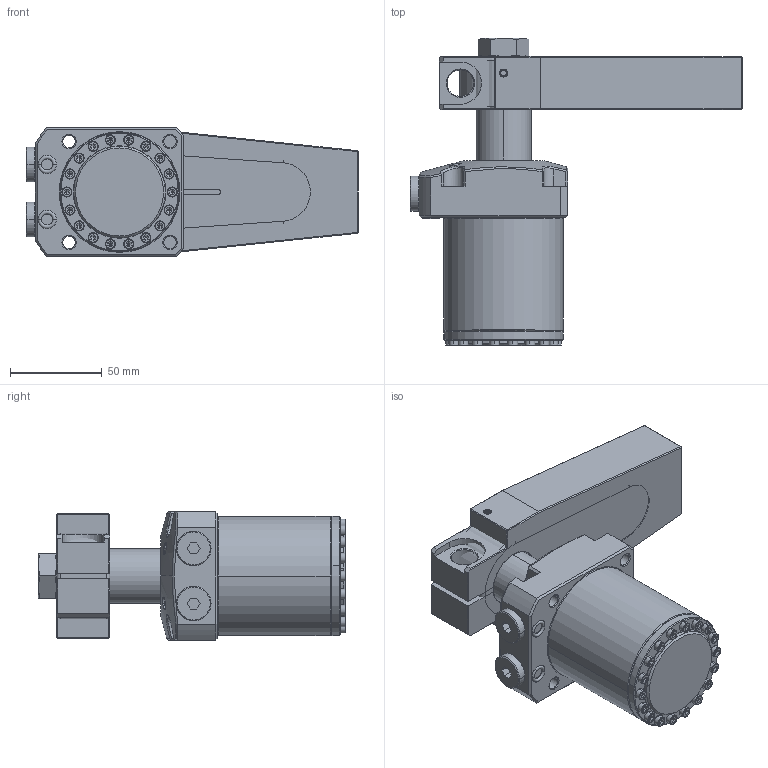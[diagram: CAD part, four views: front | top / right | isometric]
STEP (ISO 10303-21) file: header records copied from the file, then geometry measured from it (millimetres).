
FILE_DESCRIPTION((''),'2;1');
FILE_NAME('SIMP_GENERIC_SWING_CYD_65_ASM','2023-04-16T11:31:52',('Design 2'),(''),'CREO PARAMETRIC BY PTC INC, 2020053','CREO PARAMETRIC BY PTC INC, 2020053','');
FILE_SCHEMA(('CONFIG_CONTROL_DESIGN'));
Length unit declared in the file: millimetre
Products named in the file (16): BODY__; BODY_TOP_FLG___ASM; PISTON__; PISTON_ASM___ASM; SWINGER_ARM__; SWINGER_ARM_ASM___ASM; CLAMP__; HEXAGON_NUT__; CLAMP_2ND_TYPE__; ISHCS03X10; 1___; 2___; HALDER_SEALING-PLUG-228800_00_ASM; STATIC-O-RING-10X2S; G-1-4_CLOSE_PLUG; SIMP_GENERIC_SWING_CYD_65_ASM
Assembly tree (35 placements, depth 3):
  SIMP_GENERIC_SWING_CYD_65_ASM
    BODY_TOP_FLG___ASM
      BODY__
    PISTON_ASM___ASM
      PISTON__
    SWINGER_ARM_ASM___ASM
      SWINGER_ARM__
    CLAMP__
    HEXAGON_NUT__
    CLAMP_2ND_TYPE__
    ISHCS03X10  x18
    HALDER_SEALING-PLUG-228800_00_ASM  x2
      1___
      2___
    STATIC-O-RING-10X2S  x2
    G-1-4_CLOSE_PLUG  x2
Bounding box: 181 x 167.6 x 70 mm (x, y, z)
Volume: 749210.2 mm3; surface area: 133546.4 mm2
Topology: 32 solids, 32 shells, 1385 faces, 3175 edges, 1870 vertices
Faces by surface type: cylinder 455, plane 428, cone 348, bspline 88, torus 60, sphere 6
Entity records: 38039 total; most frequent: CARTESIAN_POINT 20133, ORIENTED_EDGE 3762, DIRECTION 3424, EDGE_CURVE 1881, AXIS2_PLACEMENT_3D 1292, VERTEX_POINT 1154, EDGE_LOOP 873, VECTOR 840
